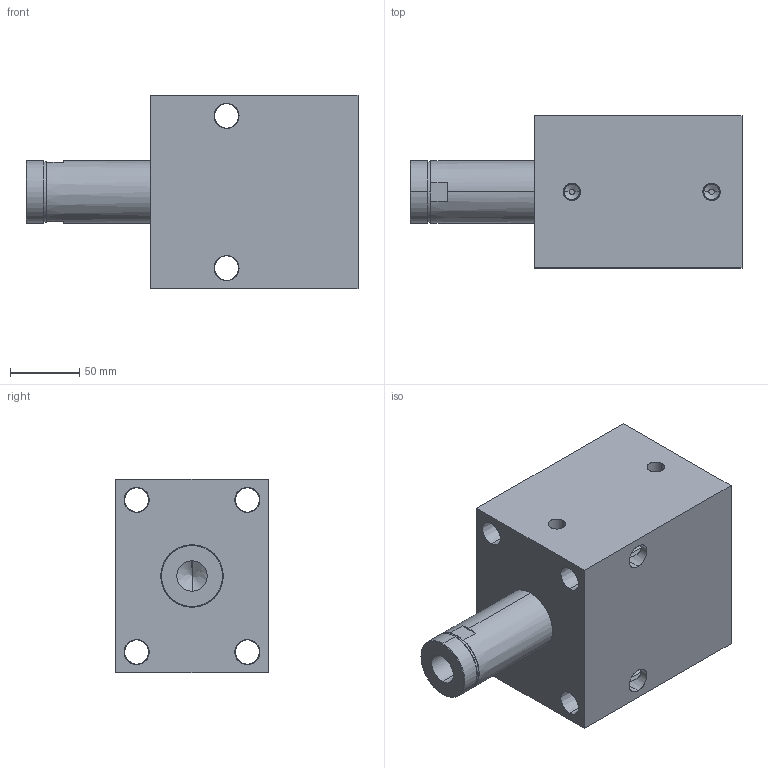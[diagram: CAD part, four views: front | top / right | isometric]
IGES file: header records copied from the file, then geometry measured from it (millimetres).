
Start section: SolidWorks IGES file using analytic representation for surfaces
Global section: file name: C:\Documents and Settings\rajib\Desktop\Rajib\BLOCK CYLINDER HYDRAULIC\0701-0704\IGS 0701-0708\0706.IGS; native system: SolidWorks 2007; preprocessor: SolidWorks 2007; author: rajib; date: 110121.160626; units: millimetre
Bounding box: 240 x 110 x 140 mm (x, y, z)
Surface area: 165833.9 mm2 (no closed solid volume)
Topology: 0 solids, 0 shells, 80 faces, 1904 edges, 1902 vertices
Faces by surface type: revolution 58, bspline 22
